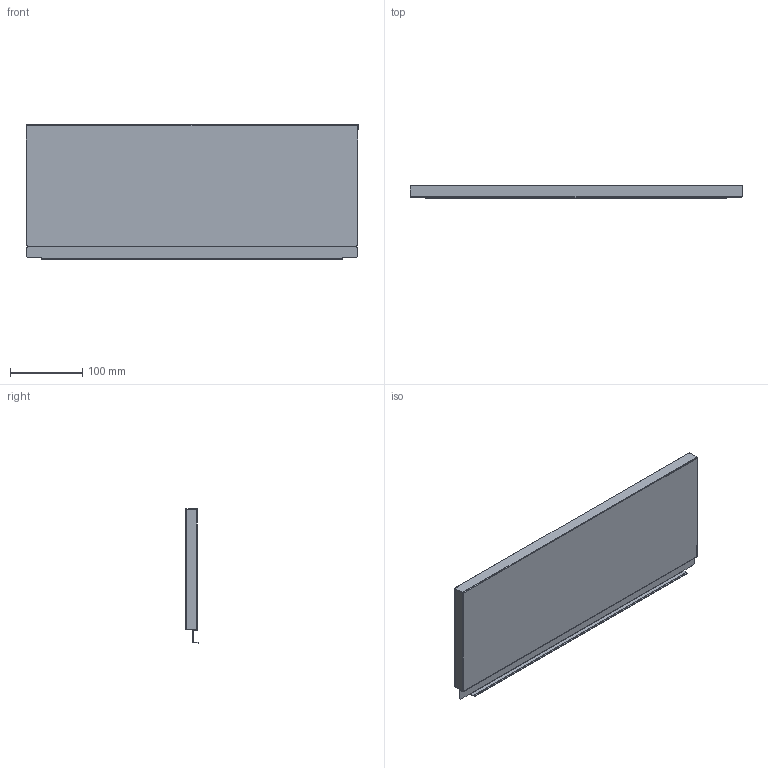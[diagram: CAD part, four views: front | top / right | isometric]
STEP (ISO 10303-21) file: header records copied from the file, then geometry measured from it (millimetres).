
FILE_DESCRIPTION (( 'STEP AP214' ), '1' );
FILE_NAME ('_STRW_H186_KAB_550.step', '2010-08-24T14:40:25', ( 'grass' ), ( '' ), 'SwSTEP 2.0', 'SolidWorks 2009', '' );
FILE_SCHEMA (( 'AUTOMOTIVE_DESIGN' ));
Length unit declared in the file: millimetre
Products named in the file (1): _STRW_H186_KAB_550
Bounding box: 460 x 17 x 186.14 mm (x, y, z)
Volume: 83523.9 mm3; surface area: 209965.1 mm2
Topology: 1 solids, 1 shells, 76 faces, 214 edges, 140 vertices
Faces by surface type: plane 54, cylinder 22
Entity records: 2472 total; most frequent: CARTESIAN_POINT 431, ORIENTED_EDGE 428, DIRECTION 412, EDGE_CURVE 214, LINE 170, VECTOR 170, VERTEX_POINT 140, AXIS2_PLACEMENT_3D 121
